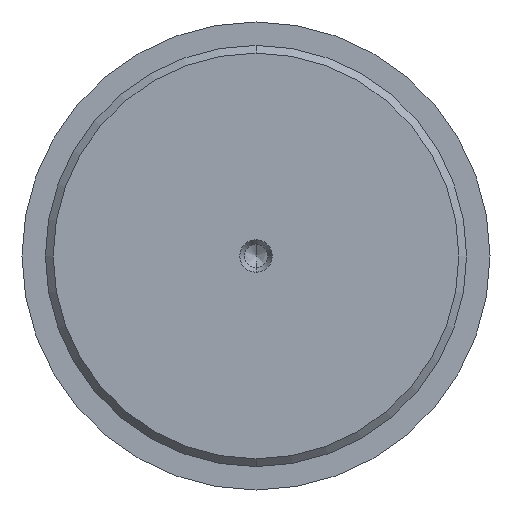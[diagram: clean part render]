
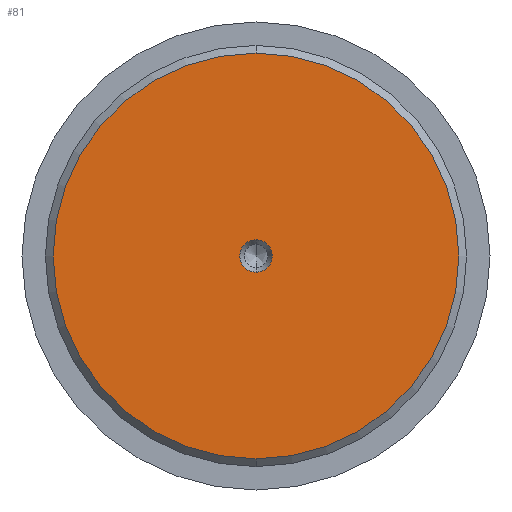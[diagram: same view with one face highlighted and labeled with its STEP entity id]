
A CAD part, left-side view. The second image highlights one B-rep face of the part: STEP entity #81.
In plain terms, the highlighted free-form (B-spline) face has degree [1, 1] with [2, 2] control points.
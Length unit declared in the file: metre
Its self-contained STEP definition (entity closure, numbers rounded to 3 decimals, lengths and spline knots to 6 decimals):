
#81 = ADVANCED_FACE( '', ( #143, #144 ), #145, .F. );
#143 = FACE_BOUND( '', #267, .T. );
#144 = FACE_OUTER_BOUND( '', #268, .T. );
#145 = B_SPLINE_SURFACE_WITH_KNOTS( '', 1, 1, ( ( #269, #270 ), ( #271, #272 ) ), .UNSPECIFIED., .F., .F., .F., ( 2, 2 ), ( 2, 2 ), ( 0., 1. ), ( 0., 1. ), .UNSPECIFIED. );
#267 = EDGE_LOOP( '', ( #729, #730 ) );
#268 = EDGE_LOOP( '', ( #731, #732 ) );
#269 = CARTESIAN_POINT( '', ( 0., -0.026312, 0.026312 ) );
#270 = CARTESIAN_POINT( '', ( 0., 0.026312, 0.026312 ) );
#271 = CARTESIAN_POINT( '', ( 0., -0.026312, -0.026312 ) );
#272 = CARTESIAN_POINT( '', ( 0., 0.026312, -0.026312 ) );
#729 = ORIENTED_EDGE( '', *, *, #1073, .F. );
#730 = ORIENTED_EDGE( '', *, *, #1074, .F. );
#731 = ORIENTED_EDGE( '', *, *, #1072, .T. );
#732 = ORIENTED_EDGE( '', *, *, #1066, .T. );
#1066 = EDGE_CURVE( '', #1179, #1180, #1181, .F. );
#1072 = EDGE_CURVE( '', #1180, #1179, #1189, .F. );
#1073 = EDGE_CURVE( '', #1190, #1191, #1192, .T. );
#1074 = EDGE_CURVE( '', #1191, #1190, #1193, .T. );
#1179 = VERTEX_POINT( '', #1355 );
#1180 = VERTEX_POINT( '', #1356 );
#1181 = CIRCLE( '', #1357, 0.026 );
#1189 = CIRCLE( '', #1367, 0.026 );
#1190 = VERTEX_POINT( '', #1368 );
#1191 = VERTEX_POINT( '', #1369 );
#1192 = CIRCLE( '', #1370, 0.002077 );
#1193 = CIRCLE( '', #1371, 0.002077 );
#1355 = CARTESIAN_POINT( '', ( 0., 0., -0.026 ) );
#1356 = CARTESIAN_POINT( '', ( 0., 0., 0.026 ) );
#1357 = AXIS2_PLACEMENT_3D( '', #1582, #1583, #1584 );
#1367 = AXIS2_PLACEMENT_3D( '', #1596, #1597, #1598 );
#1368 = CARTESIAN_POINT( '', ( 0., 0., -0.002077 ) );
#1369 = CARTESIAN_POINT( '', ( 0., 0., 0.002077 ) );
#1370 = AXIS2_PLACEMENT_3D( '', #1599, #1600, #1601 );
#1371 = AXIS2_PLACEMENT_3D( '', #1602, #1603, #1604 );
#1582 = CARTESIAN_POINT( '', ( 0., 0., 0. ) );
#1583 = DIRECTION( '', ( 1., 0., 0. ) );
#1584 = DIRECTION( '', ( 0., 0., -1. ) );
#1596 = CARTESIAN_POINT( '', ( 0., 0., 0. ) );
#1597 = DIRECTION( '', ( 1., 0., 0. ) );
#1598 = DIRECTION( '', ( 0., 0., -1. ) );
#1599 = CARTESIAN_POINT( '', ( 0., 0., 0. ) );
#1600 = DIRECTION( '', ( -1., 0., 0. ) );
#1601 = DIRECTION( '', ( 0., 0., 1. ) );
#1602 = CARTESIAN_POINT( '', ( 0., 0., 0. ) );
#1603 = DIRECTION( '', ( -1., 0., 0. ) );
#1604 = DIRECTION( '', ( 0., 0., 1. ) );
